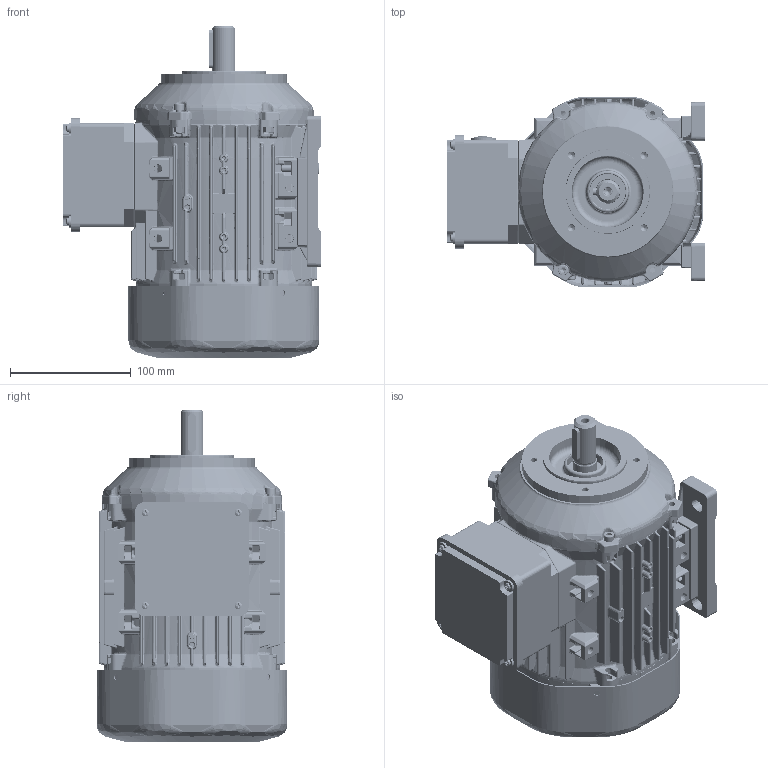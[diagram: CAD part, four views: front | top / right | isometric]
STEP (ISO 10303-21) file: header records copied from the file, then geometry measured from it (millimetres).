
FILE_DESCRIPTION(/* description */ (''),/* implementation_level */ '2;1');
FILE_NAME(/* name */ 'OUTLOOK VIEW QH80 PC B34 - REDUCED FT85 SPL.stp',/* time_stamp */ '2021-09-10T13:17:24+03:00',/* author */ (''),/* organization */ (''),/* preprocessor_version */ 'ST-DEVELOPER v16',/* originating_system */ 'SIEMENS PLM Software NX 11.0',/* authorisation */ '');
FILE_SCHEMA (('AUTOMOTIVE_DESIGN { 1 0 10303 214 3 1 1 1 }'));
Length unit declared in the file: millimetre
Products named in the file (1): 26061960DD717nj3
Bounding box: 214.3 x 158 x 275 mm (x, y, z)
Volume: 2496726 mm3; surface area: 1022744.5 mm2
Topology: 52 solids, 56 shells, 11759 faces, 28534 edges, 16345 vertices
Faces by surface type: bspline 3678, cylinder 3246, plane 2514, sphere 841, torus 717, cone 680, extrusion 83
Full cylindrical faces by diameter (mm): 0.1 x2, 3.3 x5, 3.5 x4, 3.985 x3, 4 x4, 4.2 x1, 4.22 x3, 4.5 x4, 5 x9, 5.3 x2, 5.5 x4, 6 x2, 6.4 x1, 6.6 x1, 8 x1, 8.5 x1, 10 x3, 18.38 x2, 18.4 x1, 19 x3, 19.4 x2, 20 x6, 20.2 x2, 20.5 x1, 25 x2, 28.8 x8, 30 x3, 38.45 x4, 40.59 x8, 47 x6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
Entity records: 464655 total; most frequent: CARTESIAN_POINT 172993, ORIENTED_EDGE 54422, DIRECTION 48673, EDGE_CURVE 27211, AXIS2_PLACEMENT_3D 20239, VERTEX_POINT 16144, EDGE_LOOP 12831, ADVANCED_FACE 11755
